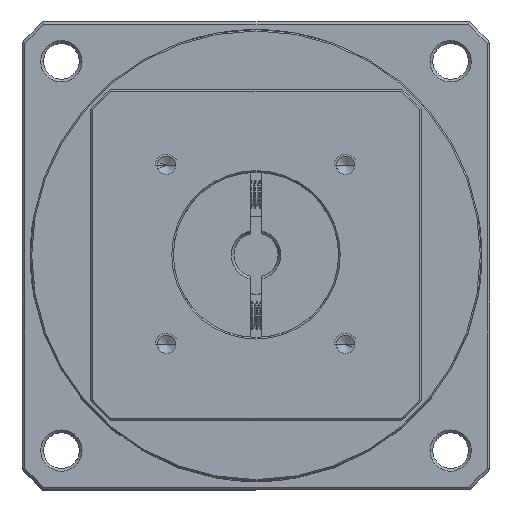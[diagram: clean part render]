
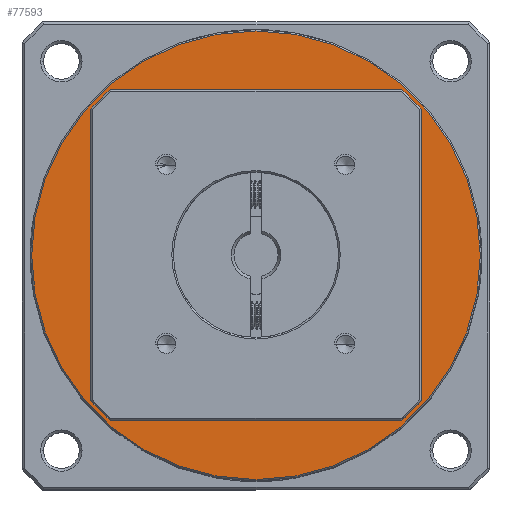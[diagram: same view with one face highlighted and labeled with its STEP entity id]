
A CAD part, top view. The second image highlights one B-rep face of the part: STEP entity #77593.
In plain terms, the highlighted planar face has unit normal (0, 0, 1).
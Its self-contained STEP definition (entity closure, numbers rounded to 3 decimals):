
#3293 = EDGE_CURVE ( 'NONE', #31086, #85912, #95576, .T. ) ;
#3530 = ORIENTED_EDGE ( 'NONE', *, *, #3293, .F. ) ;
#5558 = AXIS2_PLACEMENT_3D ( 'NONE', #124352, #67019, #30059 ) ;
#9987 = DIRECTION ( 'NONE',  ( 1., 0., 0. ) ) ;
#12437 = DIRECTION ( 'NONE',  ( 0., 0., 1. ) ) ;
#18850 = CARTESIAN_POINT ( 'NONE',  ( -76.692, 55.161, -50.786 ) ) ;
#20560 = DIRECTION ( 'NONE',  ( 0., 0., 1. ) ) ;
#24653 = CIRCLE ( 'NONE', #33786, 30. ) ;
#24660 = EDGE_LOOP ( 'NONE', ( #66319, #112494 ) ) ;
#27450 = AXIS2_PLACEMENT_3D ( 'NONE', #109391, #12437, #61194 ) ;
#30059 = DIRECTION ( 'NONE',  ( 1., 0., 0. ) ) ;
#31086 = VERTEX_POINT ( 'NONE', #98847 ) ;
#33786 = AXIS2_PLACEMENT_3D ( 'NONE', #55830, #84408, #65901 ) ;
#33875 = PLANE ( 'NONE',  #50453 ) ;
#50453 = AXIS2_PLACEMENT_3D ( 'NONE', #71672, #120217, #54001 ) ;
#52360 = AXIS2_PLACEMENT_3D ( 'NONE', #18850, #20560, #9987 ) ;
#54001 = DIRECTION ( 'NONE',  ( 1., 0., 0. ) ) ;
#55830 = CARTESIAN_POINT ( 'NONE',  ( -76.692, 55.161, -50.786 ) ) ;
#55866 = EDGE_CURVE ( 'NONE', #101205, #92770, #79583, .T. ) ;
#56364 = CIRCLE ( 'NONE', #5558, 40.75 ) ;
#58695 = EDGE_LOOP ( 'NONE', ( #122269, #3530 ) ) ;
#61194 = DIRECTION ( 'NONE',  ( 1., 0., 0. ) ) ;
#65901 = DIRECTION ( 'NONE',  ( 1., 0., 0. ) ) ;
#66319 = ORIENTED_EDGE ( 'NONE', *, *, #123047, .T. ) ;
#67019 = DIRECTION ( 'NONE',  ( 0., 0., 1. ) ) ;
#68435 = CARTESIAN_POINT ( 'NONE',  ( -35.942, 55.161, -50.786 ) ) ;
#71672 = CARTESIAN_POINT ( 'NONE',  ( -76.692, 55.161, -50.786 ) ) ;
#77593 = ADVANCED_FACE ( 'NONE', ( #100626, #120049 ), #33875, .T. ) ;
#79583 = CIRCLE ( 'NONE', #27450, 40.75 ) ;
#84408 = DIRECTION ( 'NONE',  ( 0., 0., 1. ) ) ;
#85912 = VERTEX_POINT ( 'NONE', #119808 ) ;
#92770 = VERTEX_POINT ( 'NONE', #104215 ) ;
#95576 = CIRCLE ( 'NONE', #52360, 30. ) ;
#98847 = CARTESIAN_POINT ( 'NONE',  ( -46.692, 55.161, -50.786 ) ) ;
#100626 = FACE_BOUND ( 'NONE', #58695, .T. ) ;
#101017 = EDGE_CURVE ( 'NONE', #85912, #31086, #24653, .T. ) ;
#101205 = VERTEX_POINT ( 'NONE', #68435 ) ;
#104215 = CARTESIAN_POINT ( 'NONE',  ( -117.442, 55.161, -50.786 ) ) ;
#109391 = CARTESIAN_POINT ( 'NONE',  ( -76.692, 55.161, -50.786 ) ) ;
#112494 = ORIENTED_EDGE ( 'NONE', *, *, #55866, .T. ) ;
#119808 = CARTESIAN_POINT ( 'NONE',  ( -106.692, 55.161, -50.786 ) ) ;
#120049 = FACE_OUTER_BOUND ( 'NONE', #24660, .T. ) ;
#120217 = DIRECTION ( 'NONE',  ( 0., 0., 1. ) ) ;
#122269 = ORIENTED_EDGE ( 'NONE', *, *, #101017, .F. ) ;
#123047 = EDGE_CURVE ( 'NONE', #92770, #101205, #56364, .T. ) ;
#124352 = CARTESIAN_POINT ( 'NONE',  ( -76.692, 55.161, -50.786 ) ) ;
